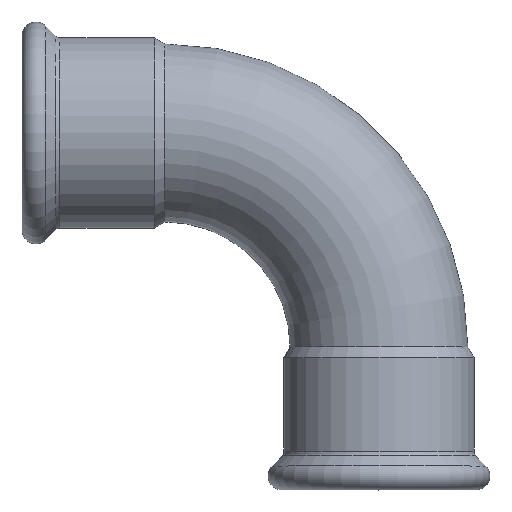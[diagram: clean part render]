
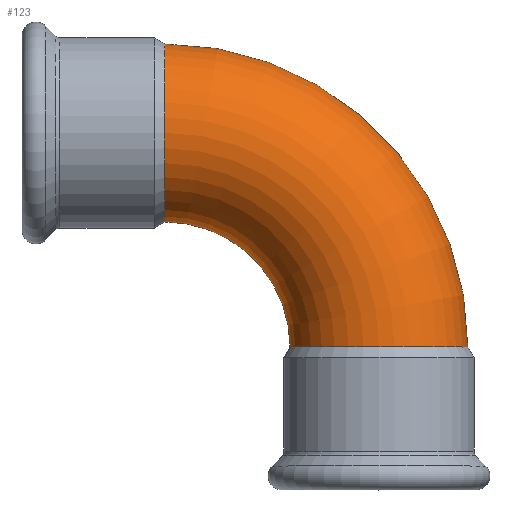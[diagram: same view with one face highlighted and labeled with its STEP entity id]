
A CAD part, top view. The second image highlights one B-rep face of the part: STEP entity #123.
In plain terms, the highlighted toroidal (fillet/blend) face has major radius 77 mm and minor radius 32 mm.
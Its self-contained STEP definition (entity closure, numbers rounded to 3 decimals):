
#96=CARTESIAN_POINT('',(0.,-77.,0.0));
#97=DIRECTION('',(0.0,0.0,-1.0));
#98=DIRECTION('',(-1.0,0.0,0.0));
#99=AXIS2_PLACEMENT_3D('',#96,#97,#98);
#100=TOROIDAL_SURFACE('',#99,77.,32.0);
#101=CARTESIAN_POINT('',(109.,-77.,0.0));
#102=VERTEX_POINT('',#101);
#103=CARTESIAN_POINT('',(77.,-77.,0.0));
#104=DIRECTION('',(0.0,-1.0,0.0));
#105=DIRECTION('',(1.0,0.0,0.0));
#106=AXIS2_PLACEMENT_3D('',#103,#104,#105);
#107=CIRCLE('',#106,32.);
#108=EDGE_CURVE('',#102,#102,#107,.T.);
#109=ORIENTED_EDGE('',*,*,#108,.F.);
#110=EDGE_LOOP('',(#109));
#111=FACE_OUTER_BOUND('',#110,.T.);
#112=CARTESIAN_POINT('',(0.0,32.0,0.0));
#113=VERTEX_POINT('',#112);
#114=CARTESIAN_POINT('',(0.0,0.0,0.0));
#115=DIRECTION('',(1.0,0.0,0.0));
#116=DIRECTION('',(0.0,1.0,0.0));
#117=AXIS2_PLACEMENT_3D('',#114,#115,#116);
#118=CIRCLE('',#117,32.0);
#119=EDGE_CURVE('',#113,#113,#118,.T.);
#120=ORIENTED_EDGE('',*,*,#119,.T.);
#121=EDGE_LOOP('',(#120));
#122=FACE_BOUND('',#121,.T.);
#123=ADVANCED_FACE('',(#111,#122),#100,.T.);
